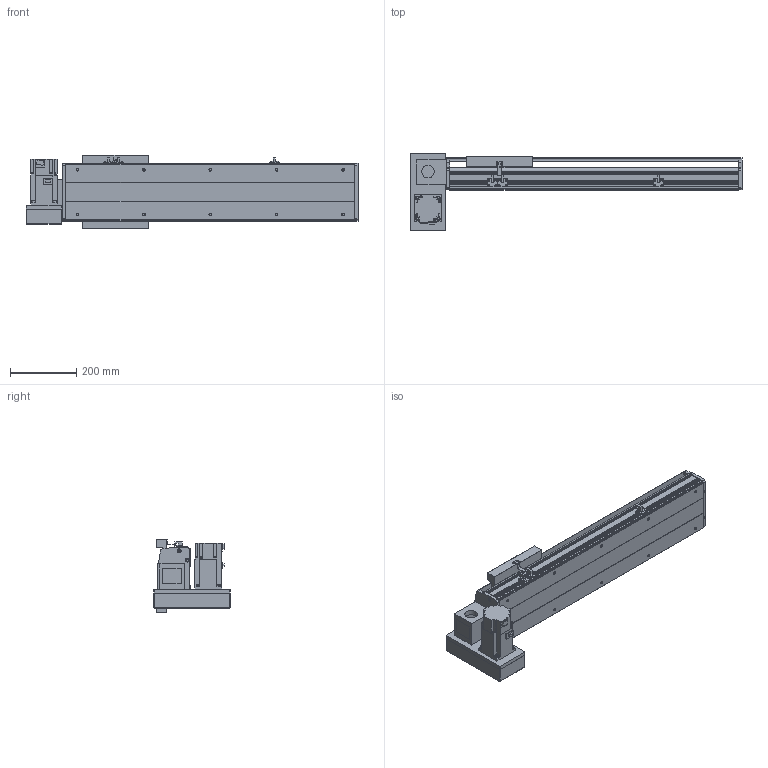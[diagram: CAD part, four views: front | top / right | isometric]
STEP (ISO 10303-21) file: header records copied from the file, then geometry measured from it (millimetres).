
FILE_DESCRIPTION(/* description */ ('STEP AP214'),/* implementation_level */ '2;1');
FILE_NAME(/* name */ 'PBS200-P40-S500-LD-T75-C1-N(0)',/* time_stamp */ '2022-06-11T08:43:33+02:00',/* author */ ('License CC BY-ND 4.0'),/* organization */ ('CADENAS'),/* preprocessor_version */ 'ST-DEVELOPER v18.102',/* originating_system */ 'PARTsolutions',/* authorisation */ ' ');
FILE_SCHEMA (('AUTOMOTIVE_DESIGN { 1 0 10303 214 3 1 1 }','AUTOMOTIVE_DESIGN {1 0 10303 214 3 1 1}'));
Length unit declared in the file: millimetre
Products named in the file (7): PBS200-P40-S500-LD-T75-C1-N(0); PBS200_sensor; PBS200_plant; PBS200_sliser; T75-p1; PBS200T-LD_motors; PBS200-S500()_body
Assembly tree (8 placements, depth 2):
  PBS200-P40-S500-LD-T75-C1-N(0)
    PBS200_sensor  x3
    PBS200_plant
    PBS200_sliser
    T75-p1
    PBS200T-LD_motors
    PBS200-S500()_body
Bounding box: 1000 x 230 x 221 mm (x, y, z)
Volume: 8115450.3 mm3; surface area: 1327062.7 mm2
Topology: 8 solids, 8 shells, 902 faces, 2344 edges, 1530 vertices
Faces by surface type: plane 568, cylinder 292, cone 42
Full cylindrical faces by diameter (mm): 2.459 x6, 3.242 x4, 4.5 x6, 4.917 x4, 5 x6, 6 x7, 6.6 x8, 6.647 x14, 8 x6, 10 x4, 12 x8, 38 x2, 40 x1, 70 x1
Entity records: 24221 total; most frequent: DIRECTION 4255, CARTESIAN_POINT 4138, ORIENTED_EDGE 3946, EDGE_CURVE 1973, AXIS2_PLACEMENT_3D 1471, VERTEX_POINT 1354, LINE 1313, VECTOR 1313
